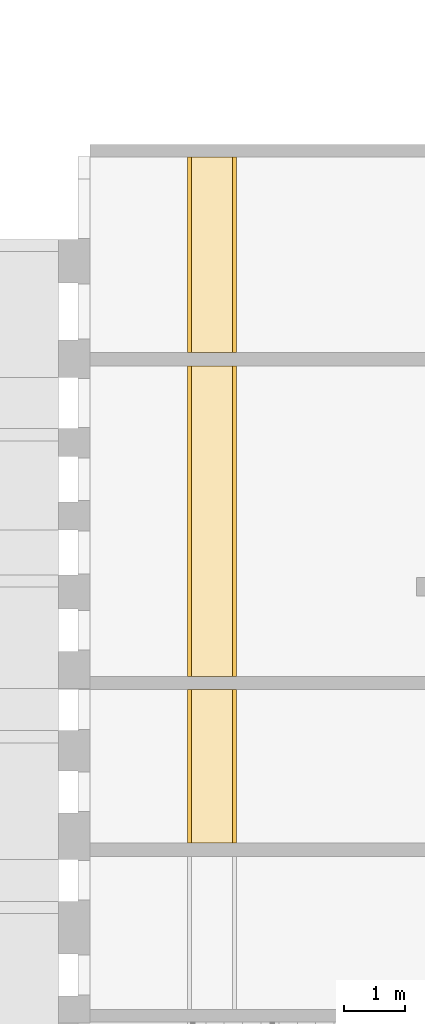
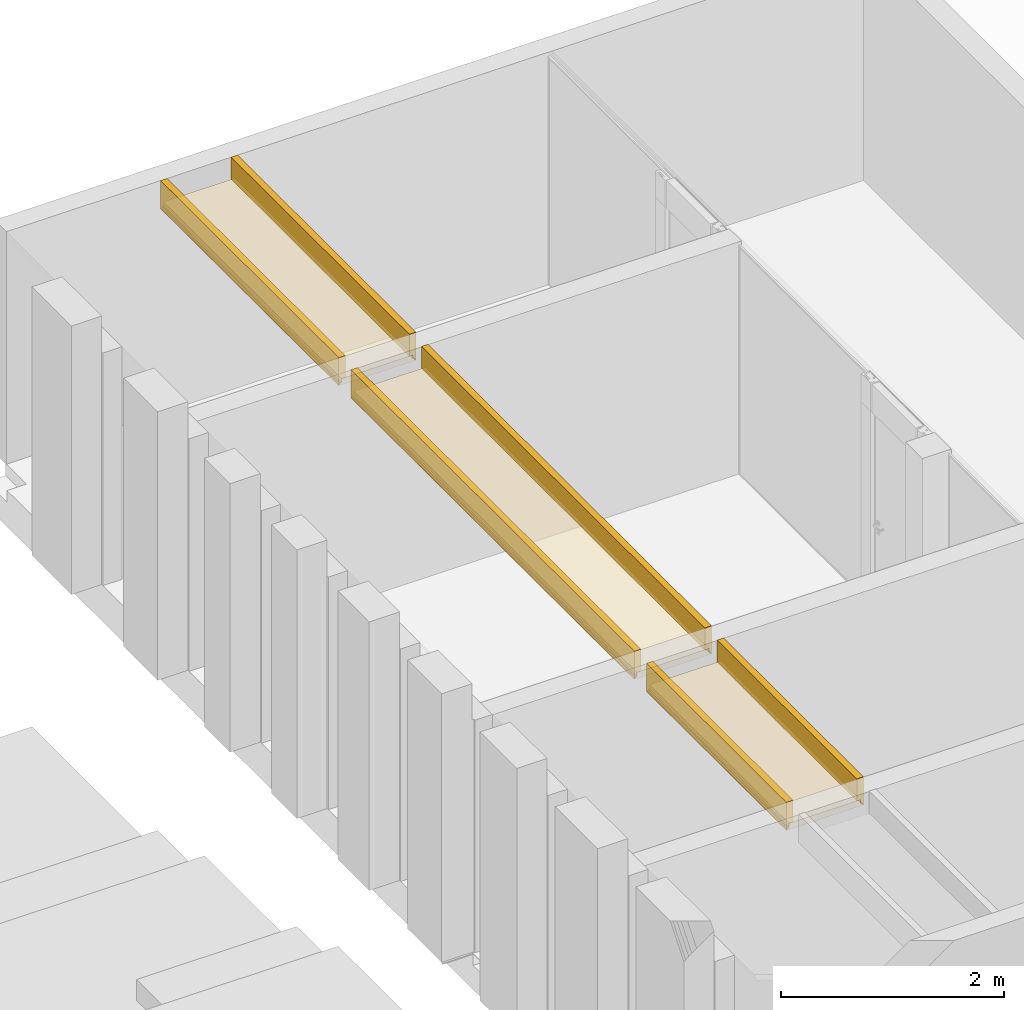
# One storey, part 55 of 79: 9 coverings.
"""IFC2X3 building model written with IfcOpenShell, lengths in millimetres."""

from ifc_helpers import new_model, entity, si_unit, converted_unit, derived_unit, money_unit, direction, frame, origin_with_axes, place, context, subcontext, project, spatial, faceted_brep, material, material_list, type_object, element, save


model = new_model("IFC2X3")

# Units and contexts
model_context = context("Model", 3, precision=0.01, world=origin_with_axes(), true_north=direction((0.0, 1.0)))
body_context = subcontext(model_context, "Body", "Model", "MODEL_VIEW")
ifc_project = project(units=[si_unit("LENGTHUNIT", "METRE", prefix="MILLI"), si_unit("AREAUNIT", "SQUARE_METRE"), si_unit("VOLUMEUNIT", "CUBIC_METRE"), converted_unit("PLANEANGLEUNIT", "DEGREE", entity("IfcPlaneAngleMeasure", 0.0174532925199), si_unit("PLANEANGLEUNIT", "RADIAN"), dimensions=[0, 0, 0, 0, 0, 0, 0]), si_unit("SOLIDANGLEUNIT", "STERADIAN"), money_unit("EUR"), converted_unit("TIMEUNIT", "Year", entity("IfcTimeMeasure", 31556926.0), si_unit("TIMEUNIT", "SECOND"), dimensions=[0, 0, 1, 0, 0, 0, 0]), si_unit("MASSUNIT", "GRAM", prefix="KILO"), si_unit("THERMODYNAMICTEMPERATUREUNIT", "DEGREE_CELSIUS"), si_unit("LUMINOUSINTENSITYUNIT", "LUMEN"), si_unit("ENERGYUNIT", "JOULE", prefix="MEGA"), derived_unit("THERMALCONDUCTANCEUNIT", [(si_unit("POWERUNIT", "WATT"), 1), (si_unit("LENGTHUNIT", "METRE"), -1), (si_unit("THERMODYNAMICTEMPERATUREUNIT", "KELVIN"), -1)]), derived_unit("SPECIFICHEATCAPACITYUNIT", [(si_unit("ENERGYUNIT", "JOULE"), 1), (si_unit("MASSUNIT", "GRAM", prefix="KILO"), -1), (si_unit("THERMODYNAMICTEMPERATUREUNIT", "KELVIN"), -1)]), derived_unit("MASSDENSITYUNIT", [(si_unit("MASSUNIT", "GRAM", prefix="KILO"), 1), (si_unit("VOLUMEUNIT", "CUBIC_METRE"), -1)])], contexts=[model_context])

# Site, building, storey
site_placement = place(None, origin_with_axes())
site = spatial("IfcSite", under=ifc_project, at=site_placement, Name="L.Koidula tn 11b", CompositionType="ELEMENT")
building_placement = place(site_placement, origin_with_axes())
building = spatial("IfcBuilding", under=site, at=building_placement, Name="Rakvere Riigigümnaasium", CompositionType="ELEMENT")
storey_placement = place(building_placement, frame((0.0, 0.0, 3720.0), z_axis=(0.0, 0.0, 1.0), x_axis=(1.0, 0.0, 0.0)))
storey = spatial("IfcBuildingStorey", under=building, at=storey_placement, Name="2.korrus +3,72", CompositionType="ELEMENT", Elevation=3720.0)

# Coverings
ifc_material_1 = material(Name="Teras")
ifc_material_2 = material(Name="SKR-02_Kipsplaat")
ifc_material_3 = material(Name="mineraalvill+karkass")
ifc_material_list_1 = material_list([ifc_material_1, ifc_material_2, ifc_material_2, ifc_material_3])
covering_type_1 = type_object("IfcCoveringType", Name="SA-LV-kipsx2+teras 68", PredefinedType="CEILING")
covering_1_placement = place(storey_placement, frame((37100.0000521, 22780.4555253, 2240.0), z_axis=(0.0, 0.0, 1.0), x_axis=(0.0, 1.0, 0.0)))
element("IfcCovering", 1, at=covering_1_placement, inside=storey, type_object=covering_type_1, material=ifc_material_list_1, Name="L-12", PredefinedType="CEILING", context=body_context, shape_type="Brep", body=[
    faceted_brep([(0.0, -3.0, 3.0), (5089.50233965, -3.0, 3.0), (5089.50233965, -3.0, 310.0), (0.0, -3.0, 310.0), (5089.50233965, 0.0, 3.0), (0.0, 0.0, 3.0), (5089.50233965, 0.0, 310.0), (0.0, 0.0, 310.0)], [[[0, 1, 2, 3]], [[4, 1, 0, 5]], [[1, 4, 6, 2]], [[3, 2, 6, 7]], [[5, 0, 3, 7]], [[4, 5, 7, 6]]]),
    faceted_brep([(0.0, -15.5, 15.5), (5089.50233965, -15.5, 15.5), (5089.50233965, -15.5, 310.0), (0.0, -15.5, 310.0), (5089.50233965, -3.0, 15.5), (0.0, -3.0, 15.5), (5089.50233965, -3.0, 310.0), (0.0, -3.0, 310.0)], [[[0, 1, 2, 3]], [[4, 1, 0, 5]], [[1, 4, 6, 2]], [[3, 2, 6, 7]], [[5, 0, 3, 7]], [[4, 5, 7, 6]]]),
    faceted_brep([(0.0, -28.0, 28.0), (5089.50233965, -28.0, 28.0), (5089.50233965, -28.0, 310.0), (0.0, -28.0, 310.0), (5089.50233965, -15.5, 28.0), (0.0, -15.5, 28.0), (5089.50233965, -15.5, 310.0), (0.0, -15.5, 310.0)], [[[0, 1, 2, 3]], [[4, 1, 0, 5]], [[1, 4, 6, 2]], [[3, 2, 6, 7]], [[5, 0, 3, 7]], [[4, 5, 7, 6]]]),
    faceted_brep([(0.0, -68.0, 68.0), (5089.50233965, -68.0, 68.0), (5089.50233965, -68.0, 310.0), (0.0, -68.0, 310.0), (5089.50233965, -28.0, 68.0), (0.0, -28.0, 68.0), (5089.50233965, -28.0, 310.0), (0.0, -28.0, 310.0)], [[[0, 1, 2, 3]], [[4, 1, 0, 5]], [[1, 4, 6, 2]], [[3, 2, 6, 7]], [[5, 0, 3, 7]], [[4, 5, 7, 6]]]),
])
covering_2_placement = place(storey_placement, frame((37100.0000521, 20050.4555224, 2240.0), z_axis=(0.0, 0.0, 1.0), x_axis=(0.0, 1.0, 0.0)))
element("IfcCovering", 2, at=covering_2_placement, inside=storey, type_object=covering_type_1, material=ifc_material_list_1, Name="L-12", PredefinedType="CEILING", context=body_context, shape_type="Brep", body=[
    faceted_brep([(0.0, -3.0, 3.0), (2509.99855059, -3.0, 3.0), (2509.99865167, -3.0, 310.0), (0.0, -3.0, 310.0), (2509.99855059, 0.0, 3.0), (0.0, 0.0, 3.0), (2509.99865167, 0.0, 310.0), (0.0, 0.0, 310.0)], [[[0, 1, 2, 3]], [[4, 1, 0, 5]], [[1, 4, 6, 2]], [[3, 2, 6, 7]], [[5, 0, 3, 7]], [[4, 5, 7, 6]]]),
    faceted_brep([(0.0, -15.5, 15.5), (2509.99855059, -15.5, 15.5), (2509.99865167, -15.5, 310.0), (0.0, -15.5, 310.0), (2509.99855059, -3.0, 15.5), (0.0, -3.0, 15.5), (2509.99865167, -3.0, 310.0), (0.0, -3.0, 310.0)], [[[0, 1, 2, 3]], [[4, 1, 0, 5]], [[1, 4, 6, 2]], [[3, 2, 6, 7]], [[5, 0, 3, 7]], [[4, 5, 7, 6]]]),
    faceted_brep([(0.0, -28.0, 28.0), (2509.99855059, -28.0, 28.0), (2509.99865167, -28.0, 310.0), (0.0, -28.0, 310.0), (2509.99855059, -15.5, 28.0), (0.0, -15.5, 28.0), (2509.99865167, -15.5, 310.0), (0.0, -15.5, 310.0)], [[[0, 1, 2, 3]], [[4, 1, 0, 5]], [[1, 4, 6, 2]], [[3, 2, 6, 7]], [[5, 0, 3, 7]], [[4, 5, 7, 6]]]),
    faceted_brep([(0.0, -68.0, 68.0), (2509.99855059, -68.0, 68.0), (2509.99865167, -68.0, 310.0), (0.0, -68.0, 310.0), (2509.99855059, -28.0, 68.0), (0.0, -28.0, 68.0), (2509.99865167, -28.0, 310.0), (0.0, -28.0, 310.0)], [[[0, 1, 2, 3]], [[4, 1, 0, 5]], [[1, 4, 6, 2]], [[3, 2, 6, 7]], [[5, 0, 3, 7]], [[4, 5, 7, 6]]]),
])
covering_3_placement = place(storey_placement, frame((37900.0000521, 31290.4541499, 2240.0), z_axis=(0.0, 0.0, 1.0), x_axis=(0.0, -1.0, 0.0)))
element("IfcCovering", 3, at=covering_3_placement, inside=storey, type_object=covering_type_1, material=ifc_material_list_1, Name="L-12", PredefinedType="CEILING", context=body_context, shape_type="Brep", body=[
    faceted_brep([(3200.49492373, 0.0, 3.0), (0.0, 0.0, 3.0), (0.0, 0.0, 310.0), (3200.49492373, 0.0, 310.0), (0.0, -3.0, 3.0), (3200.49492373, -3.0, 3.0), (0.0, -3.0, 310.0), (3200.49492373, -3.0, 310.0)], [[[0, 1, 2, 3]], [[4, 1, 0, 5]], [[1, 4, 6, 2]], [[6, 7, 3, 2]], [[5, 0, 3, 7]], [[4, 5, 7, 6]]]),
    faceted_brep([(3200.49492373, -3.0, 15.5), (0.0, -3.0, 15.5), (0.0, -3.0, 310.0), (3200.49492373, -3.0, 310.0), (0.0, -15.5, 15.5), (3200.49492373, -15.5, 15.5), (0.0, -15.5, 310.0), (3200.49492373, -15.5, 310.0)], [[[0, 1, 2, 3]], [[4, 1, 0, 5]], [[1, 4, 6, 2]], [[6, 7, 3, 2]], [[5, 0, 3, 7]], [[4, 5, 7, 6]]]),
    faceted_brep([(3200.49492373, -15.5, 28.0), (0.0, -15.5, 28.0), (0.0, -15.5, 310.0), (3200.49492373, -15.5, 310.0), (0.0, -28.0, 28.0), (3200.49492373, -28.0, 28.0), (0.0, -28.0, 310.0), (3200.49492373, -28.0, 310.0)], [[[0, 1, 2, 3]], [[4, 1, 0, 5]], [[1, 4, 6, 2]], [[6, 7, 3, 2]], [[5, 0, 3, 7]], [[4, 5, 7, 6]]]),
    faceted_brep([(3200.49492373, -28.0, 68.0), (0.0, -28.0, 68.0), (0.0, -28.0, 310.0), (3200.49492373, -28.0, 310.0), (0.0, -68.0, 68.0), (3200.49492373, -68.0, 68.0), (0.0, -68.0, 310.0), (3200.49492373, -68.0, 310.0)], [[[0, 1, 2, 3]], [[4, 1, 0, 5]], [[1, 4, 6, 2]], [[6, 7, 3, 2]], [[5, 0, 3, 7]], [[4, 5, 7, 6]]]),
])
covering_4_placement = place(storey_placement, frame((37100.0000521, 28089.9592261, 2240.0), z_axis=(0.0, 0.0, 1.0), x_axis=(0.0, 1.0, 0.0)))
element("IfcCovering", 4, at=covering_4_placement, inside=storey, type_object=covering_type_1, material=ifc_material_list_1, Name="L-12", PredefinedType="CEILING", context=body_context, shape_type="Brep", body=[
    faceted_brep([(0.0, -3.0, 3.0), (3200.49492373, -3.0, 3.0), (3200.49492373, -3.0, 310.0), (0.0, -3.0, 310.0), (3200.49492373, 0.0, 3.0), (0.0, 0.0, 3.0), (3200.49492373, 0.0, 310.0), (0.0, 0.0, 310.0)], [[[0, 1, 2, 3]], [[4, 1, 0, 5]], [[1, 4, 6, 2]], [[3, 2, 6, 7]], [[5, 0, 3, 7]], [[4, 5, 7, 6]]]),
    faceted_brep([(0.0, -15.5, 15.5), (3200.49492373, -15.5, 15.5), (3200.49492373, -15.5, 310.0), (0.0, -15.5, 310.0), (3200.49492373, -3.0, 15.5), (0.0, -3.0, 15.5), (3200.49492373, -3.0, 310.0), (0.0, -3.0, 310.0)], [[[0, 1, 2, 3]], [[4, 1, 0, 5]], [[1, 4, 6, 2]], [[3, 2, 6, 7]], [[5, 0, 3, 7]], [[4, 5, 7, 6]]]),
    faceted_brep([(0.0, -28.0, 28.0), (3200.49492373, -28.0, 28.0), (3200.49492373, -28.0, 310.0), (0.0, -28.0, 310.0), (3200.49492373, -15.5, 28.0), (0.0, -15.5, 28.0), (3200.49492373, -15.5, 310.0), (0.0, -15.5, 310.0)], [[[0, 1, 2, 3]], [[4, 1, 0, 5]], [[1, 4, 6, 2]], [[3, 2, 6, 7]], [[5, 0, 3, 7]], [[4, 5, 7, 6]]]),
    faceted_brep([(0.0, -68.0, 68.0), (3200.49492373, -68.0, 68.0), (3200.49492373, -68.0, 310.0), (0.0, -68.0, 310.0), (3200.49492373, -28.0, 68.0), (0.0, -28.0, 68.0), (3200.49492373, -28.0, 310.0), (0.0, -28.0, 310.0)], [[[0, 1, 2, 3]], [[4, 1, 0, 5]], [[1, 4, 6, 2]], [[3, 2, 6, 7]], [[5, 0, 3, 7]], [[4, 5, 7, 6]]]),
])
covering_5_placement = place(storey_placement, frame((37900.0000521, 27869.9578649, 2240.0), z_axis=(0.0, 0.0, 1.0), x_axis=(0.0, -1.0, 0.0)))
element("IfcCovering", 5, at=covering_5_placement, inside=storey, type_object=covering_type_1, material=ifc_material_list_1, Name="L-12", PredefinedType="CEILING", context=body_context, shape_type="Brep", body=[
    faceted_brep([(5089.50233965, 0.0, 3.0), (0.0, 0.0, 3.0), (0.0, 0.0, 310.0), (5089.50233965, 0.0, 310.0), (0.0, -3.0, 3.0), (5089.50233965, -3.0, 3.0), (0.0, -3.0, 310.0), (5089.50233965, -3.0, 310.0)], [[[0, 1, 2, 3]], [[4, 1, 0, 5]], [[1, 4, 6, 2]], [[6, 7, 3, 2]], [[5, 0, 3, 7]], [[4, 5, 7, 6]]]),
    faceted_brep([(5089.50233965, -3.0, 15.5), (0.0, -3.0, 15.5), (0.0, -3.0, 310.0), (5089.50233965, -3.0, 310.0), (0.0, -15.5, 15.5), (5089.50233965, -15.5, 15.5), (0.0, -15.5, 310.0), (5089.50233965, -15.5, 310.0)], [[[0, 1, 2, 3]], [[4, 1, 0, 5]], [[1, 4, 6, 2]], [[6, 7, 3, 2]], [[5, 0, 3, 7]], [[4, 5, 7, 6]]]),
    faceted_brep([(5089.50233965, -15.5, 28.0), (0.0, -15.5, 28.0), (0.0, -15.5, 310.0), (5089.50233965, -15.5, 310.0), (0.0, -28.0, 28.0), (5089.50233965, -28.0, 28.0), (0.0, -28.0, 310.0), (5089.50233965, -28.0, 310.0)], [[[0, 1, 2, 3]], [[4, 1, 0, 5]], [[1, 4, 6, 2]], [[6, 7, 3, 2]], [[5, 0, 3, 7]], [[4, 5, 7, 6]]]),
    faceted_brep([(5089.50233965, -28.0, 68.0), (0.0, -28.0, 68.0), (0.0, -28.0, 310.0), (5089.50233965, -28.0, 310.0), (0.0, -68.0, 68.0), (5089.50233965, -68.0, 68.0), (0.0, -68.0, 310.0), (5089.50233965, -68.0, 310.0)], [[[0, 1, 2, 3]], [[4, 1, 0, 5]], [[1, 4, 6, 2]], [[6, 7, 3, 2]], [[5, 0, 3, 7]], [[4, 5, 7, 6]]]),
])
covering_6_placement = place(storey_placement, frame((37900.0000521, 22560.454073, 2240.0), z_axis=(0.0, 0.0, 1.0), x_axis=(0.0, -1.0, 0.0)))
element("IfcCovering", 6, at=covering_6_placement, inside=storey, type_object=covering_type_1, material=ifc_material_list_1, Name="L-12", PredefinedType="CEILING", context=body_context, shape_type="Brep", body=[
    faceted_brep([(2509.99855059, 0.0, 3.0), (0.0, 0.0, 3.0), (0.0, 0.0, 310.0), (2509.99855059, 0.0, 310.0), (0.0, -3.0, 3.0), (2509.99855059, -3.0, 3.0), (0.0, -3.0, 310.0), (2509.99855059, -3.0, 310.0)], [[[0, 1, 2, 3]], [[4, 1, 0, 5]], [[1, 4, 6, 2]], [[6, 7, 3, 2]], [[5, 0, 3, 7]], [[4, 5, 7, 6]]]),
    faceted_brep([(2509.99855059, -3.0, 15.5), (0.0, -3.0, 15.5), (0.0, -3.0, 310.0), (2509.99855059, -3.0, 310.0), (0.0, -15.5, 15.5), (2509.99855059, -15.5, 15.5), (0.0, -15.5, 310.0), (2509.99855059, -15.5, 310.0)], [[[0, 1, 2, 3]], [[4, 1, 0, 5]], [[1, 4, 6, 2]], [[6, 7, 3, 2]], [[5, 0, 3, 7]], [[4, 5, 7, 6]]]),
    faceted_brep([(2509.99855059, -15.5, 28.0), (0.0, -15.5, 28.0), (0.0, -15.5, 310.0), (2509.99855059, -15.5, 310.0), (0.0, -28.0, 28.0), (2509.99855059, -28.0, 28.0), (0.0, -28.0, 310.0), (2509.99855059, -28.0, 310.0)], [[[0, 1, 2, 3]], [[4, 1, 0, 5]], [[1, 4, 6, 2]], [[6, 7, 3, 2]], [[5, 0, 3, 7]], [[4, 5, 7, 6]]]),
    faceted_brep([(2509.99855059, -28.0, 68.0), (0.0, -28.0, 68.0), (0.0, -28.0, 310.0), (2509.99855059, -28.0, 310.0), (0.0, -68.0, 68.0), (2509.99855059, -68.0, 68.0), (0.0, -68.0, 310.0), (2509.99855059, -68.0, 310.0)], [[[0, 1, 2, 3]], [[4, 1, 0, 5]], [[1, 4, 6, 2]], [[6, 7, 3, 2]], [[5, 0, 3, 7]], [[4, 5, 7, 6]]]),
])
ifc_material_4 = material(Name="Klaasvill")
ifc_material_list_2 = material_list([ifc_material_4, ifc_material_2, ifc_material_2, ifc_material_1])
covering_type_2 = type_object("IfcCoveringType", Name="SA-LV-kipsx2+teras+karkassita 68", PredefinedType="CEILING")
covering_7_placement = place(storey_placement, frame((37100.0000521, 28089.9592261, 2240.0), z_axis=(0.0, 0.0, 1.0), x_axis=(1.0, 0.0, 0.0)))
element("IfcCovering", 7, at=covering_7_placement, inside=storey, type_object=covering_type_2, material=ifc_material_list_2, Name="L-12", PredefinedType="CEILING", context=body_context, shape_type="Brep", body=[
    faceted_brep([(771.999999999, 0.0, 68.0), (771.999999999, 3200.49492373, 68.0), (28.0, 3200.49492373, 68.0), (28.0, 0.0, 68.0), (771.999999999, 3200.49492373, 28.0), (771.999999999, 0.0, 28.0), (28.0, 3200.49492373, 28.0), (28.0, 0.0, 28.0)], [[[0, 1, 2, 3]], [[4, 1, 0, 5]], [[1, 4, 6, 2]], [[3, 2, 6, 7]], [[5, 0, 3, 7]], [[4, 5, 7, 6]]]),
    faceted_brep([(784.499999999, 0.0, 28.0), (784.499999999, 3200.49492373, 28.0), (15.5, 3200.49492373, 28.0), (15.5, 0.0, 28.0), (784.499999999, 3200.49492373, 15.5), (784.499999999, 0.0, 15.5), (15.5, 3200.49492373, 15.5), (15.5, 0.0, 15.5)], [[[0, 1, 2, 3]], [[4, 1, 0, 5]], [[1, 4, 6, 2]], [[3, 2, 6, 7]], [[5, 0, 3, 7]], [[4, 5, 7, 6]]]),
    faceted_brep([(796.999999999, 0.0, 15.5), (796.999999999, 3200.49492373, 15.5), (3.0, 3200.49492373, 15.5), (3.0, 0.0, 15.5), (796.999999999, 3200.49492373, 3.0), (796.999999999, 0.0, 3.0), (3.0, 3200.49492373, 3.0), (3.0, 0.0, 3.0)], [[[0, 1, 2, 3]], [[4, 1, 0, 5]], [[1, 4, 6, 2]], [[3, 2, 6, 7]], [[5, 0, 3, 7]], [[4, 5, 7, 6]]]),
    faceted_brep([(0.0, 0.0, 0.0), (799.999999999, 0.0, 0.0), (799.999999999, 0.0, 3.0), (0.0, 0.0, 3.0), (0.0, 3200.49492373, 0.0), (799.999999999, 3200.49492373, 0.0), (799.999999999, 3200.49492373, 3.0), (0.0, 3200.49492373, 3.0)], [[[0, 1, 2, 3]], [[0, 4, 5, 1]], [[1, 5, 6, 2]], [[3, 2, 6, 7]], [[4, 0, 3, 7]], [[5, 4, 7, 6]]]),
])
covering_8_placement = place(storey_placement, frame((37900.0000521, 22780.4555253, 2240.0), z_axis=(0.0, 0.0, 1.0), x_axis=(1.0, 0.0, 0.0)))
element("IfcCovering", 8, at=covering_8_placement, inside=storey, type_object=covering_type_2, material=ifc_material_list_2, Name="L-12", PredefinedType="CEILING", context=body_context, shape_type="Brep", body=[
    faceted_brep([(-771.999999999, 5089.50233965, 28.0), (-771.999999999, 5089.50233965, 68.0), (-28.0, 5089.50233965, 68.0), (-28.0, 5089.50233965, 28.0), (-771.999999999, 0.0, 68.0), (-771.999999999, 0.0, 28.0), (-28.0, 0.0, 68.0), (-28.0, 0.0, 28.0)], [[[0, 1, 2, 3]], [[4, 1, 0, 5]], [[1, 4, 6, 2]], [[3, 2, 6, 7]], [[5, 0, 3, 7]], [[4, 5, 7, 6]]]),
    faceted_brep([(-784.499999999, 5089.50233965, 15.5), (-784.499999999, 5089.50233965, 28.0), (-15.5, 5089.50233965, 28.0), (-15.5, 5089.50233965, 15.5), (-784.499999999, 0.0, 28.0), (-784.499999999, 0.0, 15.5), (-15.5, 0.0, 28.0), (-15.5, 0.0, 15.5)], [[[0, 1, 2, 3]], [[4, 1, 0, 5]], [[1, 4, 6, 2]], [[3, 2, 6, 7]], [[5, 0, 3, 7]], [[4, 5, 7, 6]]]),
    faceted_brep([(-796.999999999, 5089.50233965, 3.0), (-796.999999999, 5089.50233965, 15.5), (-3.0, 5089.50233965, 15.5), (-3.0, 5089.50233965, 3.0), (-796.999999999, 0.0, 15.5), (-796.999999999, 0.0, 3.0), (-3.0, 0.0, 15.5), (-3.0, 0.0, 3.0)], [[[0, 1, 2, 3]], [[4, 1, 0, 5]], [[1, 4, 6, 2]], [[3, 2, 6, 7]], [[5, 0, 3, 7]], [[4, 5, 7, 6]]]),
    faceted_brep([(0.0, 0.0, 0.0), (0.0, 5089.50233965, 0.0), (0.0, 5089.50233965, 3.0), (0.0, 0.0, 3.0), (-799.999999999, 0.0, 0.0), (-799.999999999, 5089.50233965, 0.0), (-799.999999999, 5089.50233965, 3.0), (-799.999999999, 0.0, 3.0)], [[[0, 1, 2, 3]], [[0, 4, 5, 1]], [[1, 5, 6, 2]], [[3, 2, 6, 7]], [[4, 0, 3, 7]], [[5, 4, 7, 6]]]),
])
covering_9_placement = place(storey_placement, frame((37900.0000521, 20050.4555224, 2240.0), z_axis=(0.0, 0.0, 1.0), x_axis=(1.0, 0.0, 0.0)))
element("IfcCovering", 9, at=covering_9_placement, inside=storey, type_object=covering_type_2, material=ifc_material_list_2, Name="L-12", PredefinedType="CEILING", context=body_context, shape_type="Brep", body=[
    faceted_brep([(-771.999999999, 2509.99865167, 28.0), (-771.999999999, 2509.99865167, 68.0), (-28.0, 2509.99855059, 68.0), (-28.0, 2509.99855059, 28.0), (-771.999999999, 0.0, 68.0), (-771.999999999, 0.0, 28.0), (-28.0, 0.0, 68.0), (-28.0, 0.0, 28.0)], [[[0, 1, 2, 3]], [[4, 1, 0, 5]], [[1, 4, 6, 2]], [[3, 2, 6, 7]], [[5, 0, 3, 7]], [[4, 5, 7, 6]]]),
    faceted_brep([(-784.499999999, 2509.99865167, 15.5), (-784.499999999, 2509.99865167, 28.0), (-15.5, 2509.99855059, 28.0), (-15.5, 2509.99855059, 15.5), (-784.499999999, 0.0, 28.0), (-784.499999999, 0.0, 15.5), (-15.5, 0.0, 28.0), (-15.5, 0.0, 15.5)], [[[0, 1, 2, 3]], [[4, 1, 0, 5]], [[1, 4, 6, 2]], [[3, 2, 6, 7]], [[5, 0, 3, 7]], [[4, 5, 7, 6]]]),
    faceted_brep([(-796.999999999, 2509.99865167, 3.0), (-796.999999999, 2509.99865167, 15.5), (-3.0, 2509.99855059, 15.5), (-3.0, 2509.99855059, 3.0), (-796.999999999, 0.0, 15.5), (-796.999999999, 0.0, 3.0), (-3.0, 0.0, 15.5), (-3.0, 0.0, 3.0)], [[[0, 1, 2, 3]], [[4, 1, 0, 5]], [[1, 4, 6, 2]], [[3, 2, 6, 7]], [[5, 0, 3, 7]], [[4, 5, 7, 6]]]),
    faceted_brep([(0.0, 0.0, 0.0), (0.0, 2509.99855059, 0.0), (0.0, 2509.99855059, 3.0), (0.0, 0.0, 3.0), (-799.999999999, 0.0, 0.0), (-799.999999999, 2509.99855059, 0.0), (-799.999999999, 2509.99855059, 3.0), (-799.999999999, 0.0, 3.0)], [[[0, 1, 2, 3]], [[0, 4, 5, 1]], [[1, 5, 6, 2]], [[3, 2, 6, 7]], [[4, 0, 3, 7]], [[5, 4, 7, 6]]]),
])

save(model, "model.ifc")
